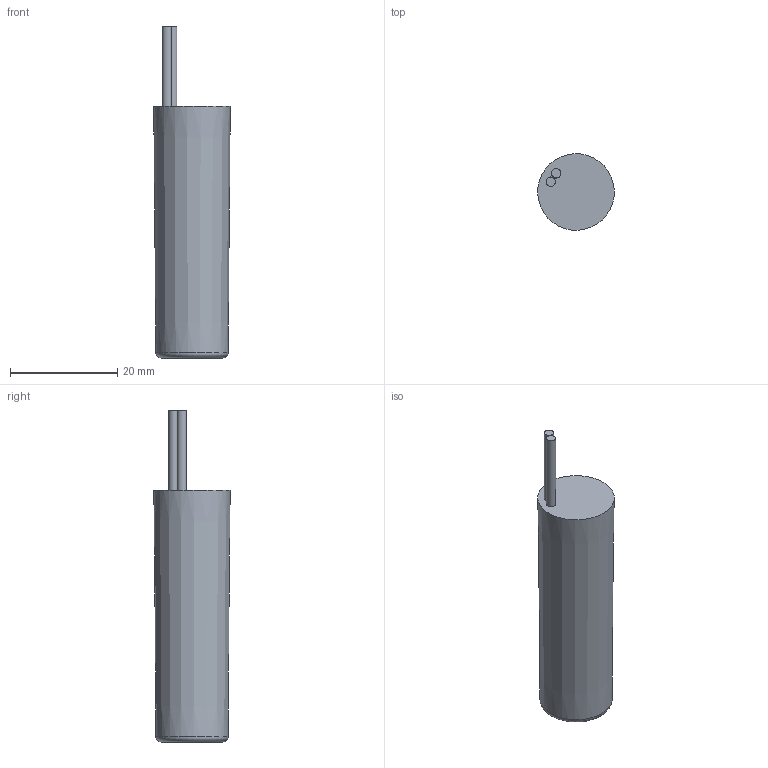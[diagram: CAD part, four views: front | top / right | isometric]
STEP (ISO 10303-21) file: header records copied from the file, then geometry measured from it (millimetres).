
FILE_DESCRIPTION(/* description */ (''),/* implementation_level */ '2;1');
FILE_NAME(/* name */ 'HNSC-A-GR Gehuse v19.step',/* time_stamp */ '2024-10-08T14:52:53+02:00',/* author */ (''),/* organization */ (''),/* preprocessor_version */ 'ST-DEVELOPER v20',/* originating_system */ 'Autodesk Translation Framework v13.20.0.188',/* authorisation */ '');
FILE_SCHEMA (('AUTOMOTIVE_DESIGN { 1 0 10303 214 3 1 1 }'));
Length unit declared in the file: millimetre
Products named in the file (3): HNSC-A-GR Gehäuse; Minimalistisch; GR Schalter vergossen
Assembly tree (2 placements, depth 3):
  HNSC-A-GR Gehäuse
    Minimalistisch
      GR Schalter vergossen
Bounding box: 14.28 x 14.28 x 62 mm (x, y, z)
Volume: 7187.1 mm3; surface area: 2518.3 mm2
Topology: 1 solids, 1 shells, 29 faces, 59 edges, 39 vertices
Faces by surface type: plane 21, bspline 4, cylinder 2, torus 1, cone 1
Full cylindrical faces by diameter (mm): 1.75 x2
Entity records: 966 total; most frequent: CARTESIAN_POINT 300, DIRECTION 119, ORIENTED_EDGE 118, EDGE_CURVE 59, LINE 43, VECTOR 43, VERTEX_POINT 39, AXIS2_PLACEMENT_3D 38
